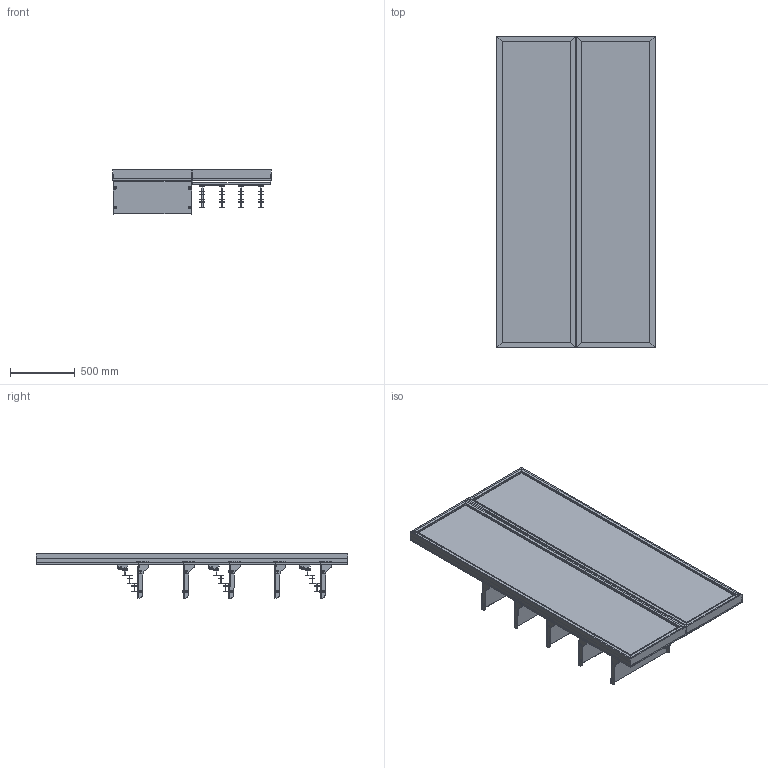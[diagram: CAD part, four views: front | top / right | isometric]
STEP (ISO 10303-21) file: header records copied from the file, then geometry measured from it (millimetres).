
FILE_DESCRIPTION (( 'STEP AP203' ), '1' );
FILE_NAME ('Padel Retail Display - Padel & Ball Solution 2.STEP', '2026-03-30T11:52:16', ( '' ), ( '' ), 'SwSTEP 2.0', 'SolidWorks 2025', '' );
FILE_SCHEMA (( 'CONFIG_CONTROL_DESIGN' ));
Length unit declared in the file: millimetre
Products named in the file (18): 0001-31-SA29.STEP; 0001-31-124.STEP; 0001-31-103.STEP; 0001-31-SA30.STEP; 0001-31-SA23 - 610W Rear Support Bar_Assem6; 0001-31-SA28 - 610W Glass Shelf_Assem5; Padel Retail Display - Ball Solution_Assem1; 0001-31-GA01 - 610W Slotted Upright; Padel Racket Display 610mm - 3 Tier Stepped Holder_Assem4; 370-01-GA01; Padel Retail Display - Padel & Ball Solution 2; 0001-31-SA23 - 610W Rear Support Bar.STEP; 0001-31-115.STEP; 0000-31-113.STEP; 0001-31-114.STEP; 0001-31-SA28 - 610W Glass Shelf.STEP; 0001-31-123.STEP; 0001-31-102.STEP
Assembly tree (44 placements, depth 6):
  Padel Retail Display - Padel & Ball Solution 2
    Padel Racket Display 610mm - 3 Tier Stepped Holder_Assem4
      0001-31-GA01 - 610W Slotted Upright
      0001-31-SA23 - 610W Rear Support Bar_Assem6  x3
        0001-31-SA23 - 610W Rear Support Bar.STEP
          0001-31-102.STEP
          0001-31-103.STEP  x2
      370-01-GA01  x6
    Padel Retail Display - Ball Solution_Assem1
      0001-31-GA01 - 610W Slotted Upright
      0001-31-SA28 - 610W Glass Shelf_Assem5  x5
        0001-31-SA28 - 610W Glass Shelf.STEP
          0001-31-SA29.STEP
            0000-31-113.STEP
            0001-31-114.STEP  x2
          0001-31-SA30.STEP
            0000-31-113.STEP
            0001-31-114.STEP  x2
          0001-31-115.STEP
          0001-31-123.STEP  x8
          0001-31-124.STEP  x4
Bounding box: 1219.5 x 2400 x 340.44 mm (x, y, z)
Volume: 20284572 mm3; surface area: 18533044.2 mm2
Topology: 230 solids, 230 shells, 3430 faces, 8826 edges, 5748 vertices
Faces by surface type: plane 2158, cylinder 1192, cone 80
Entity records: 26176 total; most frequent: CARTESIAN_POINT 4459, ORIENTED_EDGE 4124, DIRECTION 3724, EDGE_CURVE 2062, VECTOR 1706, LINE 1706, VERTEX_POINT 1360, AXIS2_PLACEMENT_3D 1009
